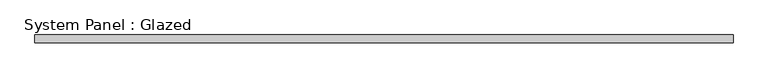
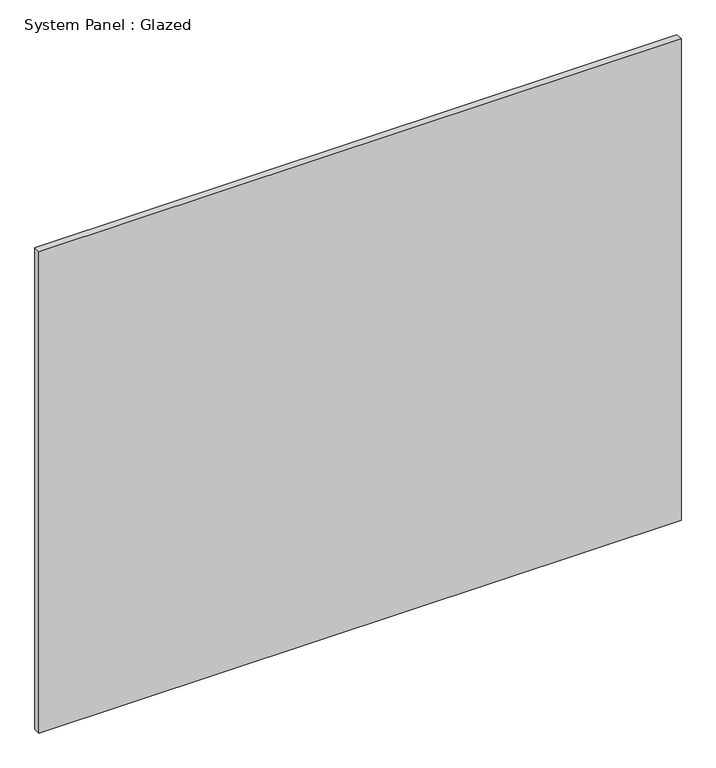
"""IFC4 building model written with IfcOpenShell, lengths in millimetres: plate geometry, System Panel : Glazed."""

from ifc_helpers import new_model, si_unit, origin, origin_with_axes, place, context, project, spatial, polyline, outline, extrude, source, transform, mapped, element, save


def system_panel_glazed_bb45afea(model_context):
    return source(origin(), model_context, "Body", "SweptSolid", [
        extrude(outline(polyline([(1153.3070958, 19.05), (-1153.3070958, 19.05), (-1153.3070958, 44.45), (1153.3070958, 44.45), (1153.3070958, 19.05)])), origin_with_axes(), (0.0, 0.0, 1.0), 1828.8),
    ])


if __name__ == "__main__":
    model = new_model("IFC4")
    model_context = context("Model", 3, world=origin())
    ifc_project = project(units=[si_unit("LENGTHUNIT", "METRE", prefix="MILLI")], contexts=[model_context])
    site = spatial("IfcSite", under=ifc_project)
    building = spatial("IfcBuilding", under=site)
    placement = place(None, origin())
    system_panel_glazed_shape = system_panel_glazed_bb45afea(model_context)
    element("IfcPlate", 1, ObjectType="System Panel : Glazed", at=placement, inside=building, context=model_context, shape_type="MappedRepresentation", body=[
        mapped(system_panel_glazed_shape, transform((0.0, 0.0, 0.0), x_axis=(1.0, 0.0, 0.0), y_axis=(0.0, 1.0, 0.0), z_axis=(0.0, 0.0, 1.0))),
    ])
    save(model, "model.ifc")
